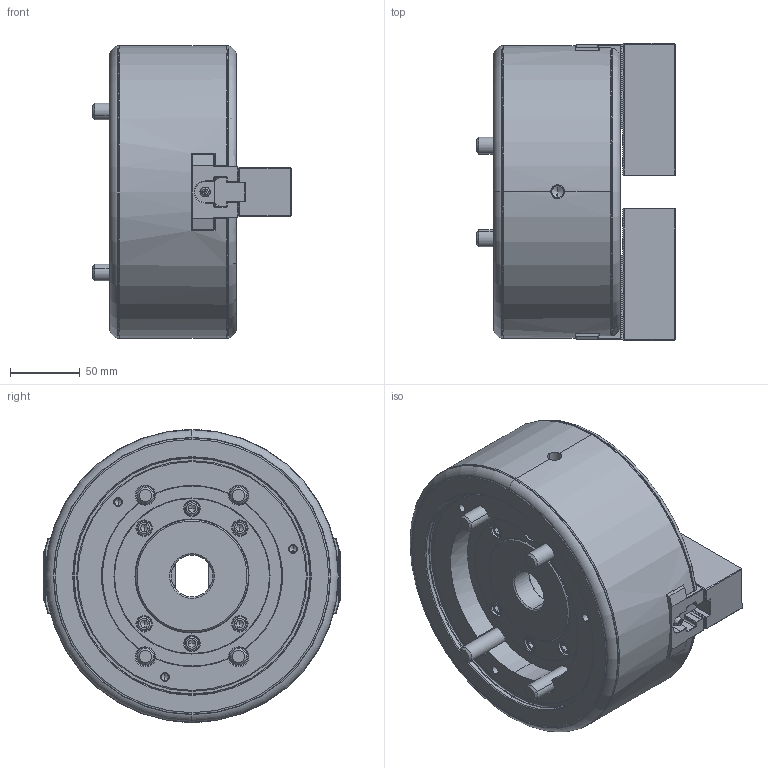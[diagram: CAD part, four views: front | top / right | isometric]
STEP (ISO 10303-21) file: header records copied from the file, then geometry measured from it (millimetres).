
FILE_DESCRIPTION (( 'STEP AP214' ), '1' );
FILE_NAME ('BRT08_UC.STEP', '2022-06-20T02:15:31', ( '' ), ( '' ), 'SwSTEP 2.0', 'SolidWorks 2020', '' );
FILE_SCHEMA (( 'AUTOMOTIVE_DESIGN' ));
Length unit declared in the file: millimetre
Products named in the file (5): BRT08-Nishi20 Tナット-Puls_61P417260-1 B-208 Tﾅｯﾄ-ﾃﾞﾌｫﾙﾄ; Bアナツキ M12×30; Part4^BRT08-Nishi21 クミタテ(量産)★; BRT08-61P314548-5 ソフトジョー_BBT208-ﾃﾞﾌｫﾙﾄ; BRT08_UC
Assembly tree (9 placements, depth 2):
  BRT08_UC
    BRT08-61P314548-5 ソフトジョー_BBT208-ﾃﾞﾌｫﾙﾄ  x2
    BRT08-Nishi20 Tナット-Puls_61P417260-1 B-208 Tﾅｯﾄ-ﾃﾞﾌｫﾙﾄ  x2
    Bアナツキ M12×30  x4
    Part4^BRT08-Nishi21 クミタテ(量産)★
Bounding box: 142.2 x 213.07 x 210 mm (x, y, z)
Volume: 2812776.9 mm3; surface area: 273508.2 mm2
Topology: 9 solids, 17 shells, 2970 faces, 8187 edges, 5311 vertices
Faces by surface type: plane 2075, cylinder 385, cone 280, bspline 129, torus 93, sphere 8
Entity records: 83996 total; most frequent: CARTESIAN_POINT 22775, ORIENTED_EDGE 13268, DIRECTION 11764, EDGE_CURVE 6634, VECTOR 4822, LINE 4822, VERTEX_POINT 4326, AXIS2_PLACEMENT_3D 3471
